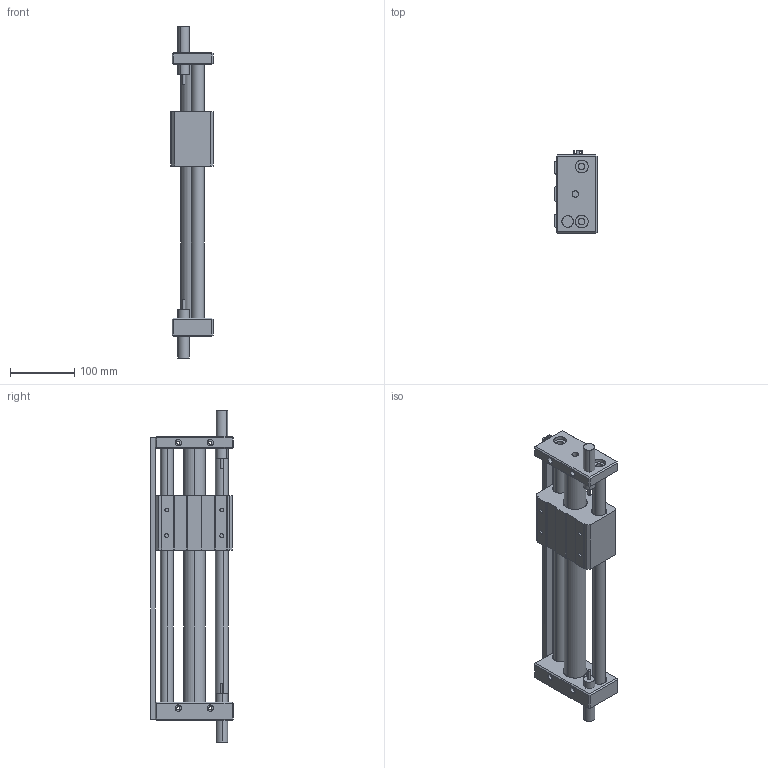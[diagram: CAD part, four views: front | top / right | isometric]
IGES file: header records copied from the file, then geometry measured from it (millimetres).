
Start section: SolidWorks IGES file using analytic representation for surfaces
Global section: file name: D:\Documents de SGA\Pieces 2D et 3D\GRU\iges\GRU 32.300.IGS; native system: SolidWorks 2010; preprocessor: SolidWorks 2010; author: SGA; date: 111216.133756; units: millimetre
Bounding box: 66 x 129.13 x 518.61 mm (x, y, z)
Surface area: 255645.5 mm2 (no closed solid volume)
Topology: 0 solids, 0 shells, 246 faces, 3800 edges, 3800 vertices
Faces by surface type: bspline 126, revolution 120
